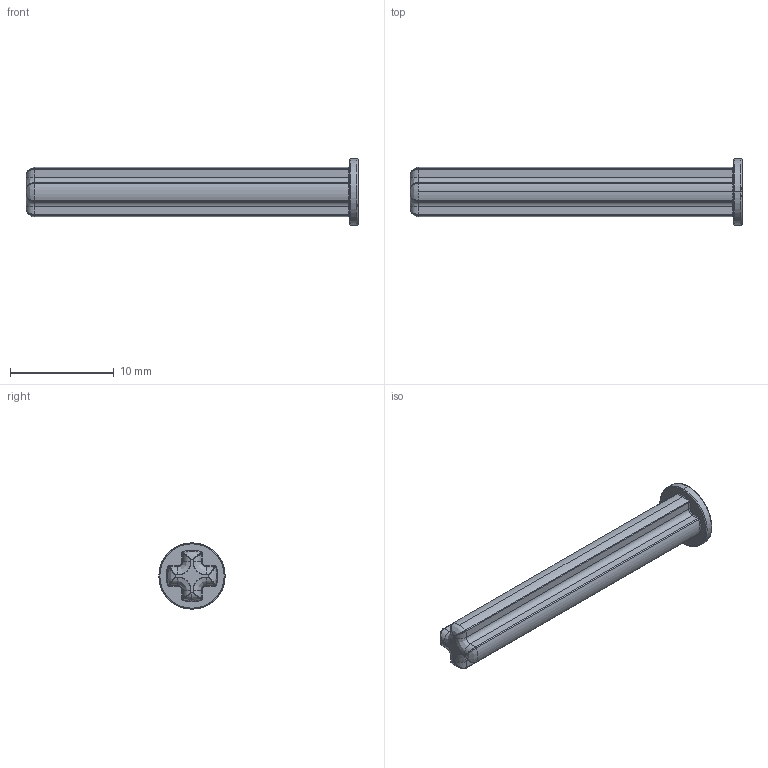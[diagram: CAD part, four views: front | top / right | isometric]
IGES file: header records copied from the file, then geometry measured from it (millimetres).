
Start section: SolidWorks IGES file using analytic representation for surfaces
Global section: file name: C:\Users\PC\Desktop\Lego Technik Gear and Axles\Axles\STEP, IGES, STL\87083 DkStone Technic Axle 4 with Stop.IGS; native system: SolidWorks 2014; preprocessor: SolidWorks 2014; author: PC; date: 150218.234446; units: millimetre
Bounding box: 32 x 6.4 x 6.4 mm (x, y, z)
Surface area: 601.7 mm2 (no closed solid volume)
Topology: 0 solids, 0 shells, 84 faces, 557 edges, 549 vertices
Faces by surface type: bspline 49, revolution 35
